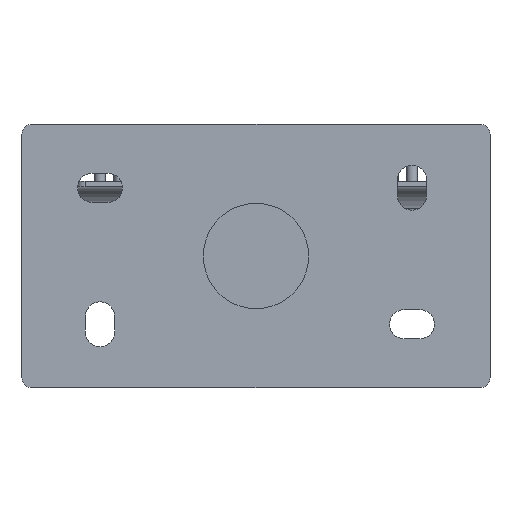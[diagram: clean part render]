
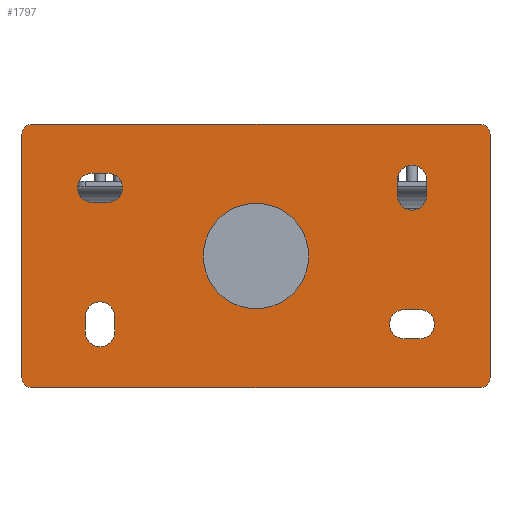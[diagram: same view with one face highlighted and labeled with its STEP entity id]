
A CAD part, front view. The second image highlights one B-rep face of the part: STEP entity #1797.
In plain terms, the highlighted planar face has unit normal (0, -1, 0).
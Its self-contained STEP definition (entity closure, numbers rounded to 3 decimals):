
#303=CARTESIAN_POINT('',(-115.,-928.9,24.104));
#304=DIRECTION('',(0.,-1.,0.));
#305=DIRECTION('',(0.,0.,1.));
#306=AXIS2_PLACEMENT_3D('',#303,#304,#305);
#308=DIRECTION('',(1.,0.,0.));
#309=VECTOR('',#308,230.);
#310=CARTESIAN_POINT('',(-115.,-928.9,29.104));
#311=LINE('195',#310,#309);
#312=CARTESIAN_POINT('',(115.,-928.9,24.104));
#313=DIRECTION('',(0.,-1.,0.));
#314=DIRECTION('',(1.,0.,0.));
#315=AXIS2_PLACEMENT_3D('',#312,#313,#314);
#317=DIRECTION('',(0.,0.,-1.));
#318=VECTOR('',#317,125.);
#319=CARTESIAN_POINT('',(120.,-928.9,24.104));
#320=LINE('196',#319,#318);
#321=CARTESIAN_POINT('',(115.,-928.9,-100.896));
#322=DIRECTION('',(0.,-1.,0.));
#323=DIRECTION('',(0.,0.,-1.));
#324=AXIS2_PLACEMENT_3D('',#321,#322,#323);
#326=DIRECTION('',(-1.,0.,0.));
#327=VECTOR('',#326,230.);
#328=CARTESIAN_POINT('',(115.,-928.9,-105.896));
#329=LINE('193',#328,#327);
#330=CARTESIAN_POINT('',(-115.,-928.9,-100.896));
#331=DIRECTION('',(0.,-1.,0.));
#332=DIRECTION('',(-1.,0.,0.));
#333=AXIS2_PLACEMENT_3D('',#330,#331,#332);
#335=DIRECTION('',(0.,0.,1.));
#336=VECTOR('',#335,125.);
#337=CARTESIAN_POINT('',(-120.,-928.9,-100.896));
#338=LINE('194',#337,#336);
#339=CARTESIAN_POINT('',(-80.,-928.9,-69.396));
#340=DIRECTION('',(0.,1.,0.));
#341=DIRECTION('',(-1.,0.,0.));
#342=AXIS2_PLACEMENT_3D('',#339,#340,#341);
#344=DIRECTION('',(0.,0.,1.));
#345=VECTOR('',#344,8.);
#346=CARTESIAN_POINT('',(-87.5,-928.9,-77.396));
#347=LINE('132',#346,#345);
#348=CARTESIAN_POINT('',(-80.,-928.9,-77.396));
#349=DIRECTION('',(0.,1.,0.));
#350=DIRECTION('',(1.,0.,0.));
#351=AXIS2_PLACEMENT_3D('',#348,#349,#350);
#353=DIRECTION('',(0.,0.,-1.));
#354=VECTOR('',#353,8.);
#355=CARTESIAN_POINT('',(-72.5,-928.9,-69.396));
#356=LINE('130',#355,#354);
#357=CARTESIAN_POINT('',(80.,-928.9,-7.396));
#358=DIRECTION('',(0.,1.,0.));
#359=DIRECTION('',(1.,0.,0.));
#360=AXIS2_PLACEMENT_3D('',#357,#358,#359);
#362=DIRECTION('',(0.,0.,-1.));
#363=VECTOR('',#362,8.);
#364=CARTESIAN_POINT('',(87.5,-928.9,0.604));
#365=LINE('136',#364,#363);
#366=CARTESIAN_POINT('',(80.,-928.9,0.604));
#367=DIRECTION('',(0.,1.,0.));
#368=DIRECTION('',(-1.,0.,0.));
#369=AXIS2_PLACEMENT_3D('',#366,#367,#368);
#371=DIRECTION('',(0.,0.,1.));
#372=VECTOR('',#371,8.);
#373=CARTESIAN_POINT('',(72.5,-928.9,-7.396));
#374=LINE('134',#373,#372);
#375=CARTESIAN_POINT('',(-84.,-928.9,-3.396));
#376=DIRECTION('',(0.,1.,0.));
#377=DIRECTION('',(0.,0.,-1.));
#378=AXIS2_PLACEMENT_3D('',#375,#376,#377);
#380=DIRECTION('',(-1.,0.,0.));
#381=VECTOR('',#380,8.);
#382=CARTESIAN_POINT('',(-76.,-928.9,-10.896));
#383=LINE('140',#382,#381);
#384=CARTESIAN_POINT('',(-76.,-928.9,-3.396));
#385=DIRECTION('',(0.,1.,0.));
#386=DIRECTION('',(0.,0.,1.));
#387=AXIS2_PLACEMENT_3D('',#384,#385,#386);
#389=DIRECTION('',(1.,0.,0.));
#390=VECTOR('',#389,8.);
#391=CARTESIAN_POINT('',(-84.,-928.9,4.104));
#392=LINE('138',#391,#390);
#393=CARTESIAN_POINT('',(76.,-928.9,-73.396));
#394=DIRECTION('',(0.,1.,0.));
#395=DIRECTION('',(0.,0.,-1.));
#396=AXIS2_PLACEMENT_3D('',#393,#394,#395);
#398=DIRECTION('',(-1.,0.,0.));
#399=VECTOR('',#398,8.);
#400=CARTESIAN_POINT('',(84.,-928.9,-80.896));
#401=LINE('144',#400,#399);
#402=CARTESIAN_POINT('',(84.,-928.9,-73.396));
#403=DIRECTION('',(0.,1.,0.));
#404=DIRECTION('',(0.,0.,1.));
#405=AXIS2_PLACEMENT_3D('',#402,#403,#404);
#407=DIRECTION('',(1.,0.,0.));
#408=VECTOR('',#407,8.);
#409=CARTESIAN_POINT('',(76.,-928.9,-65.896));
#410=LINE('142',#409,#408);
#1068=CARTESIAN_POINT('',(0.,-928.9,-38.396));
#1069=DIRECTION('',(0.,1.,0.));
#1070=DIRECTION('',(0.,0.,1.));
#1071=AXIS2_PLACEMENT_3D('',#1068,#1069,#1070);
#1077=CARTESIAN_POINT('',(0.,-928.9,-38.396));
#1078=DIRECTION('',(0.,1.,0.));
#1079=DIRECTION('',(0.,0.,-1.));
#1080=AXIS2_PLACEMENT_3D('',#1077,#1078,#1079);
#1437=CARTESIAN_POINT('',(-87.5,-928.9,-69.396));
#1438=CARTESIAN_POINT('',(-72.5,-928.9,-69.396));
#1439=VERTEX_POINT('',#1437);
#1440=VERTEX_POINT('',#1438);
#1441=CARTESIAN_POINT('',(-72.5,-928.9,-77.396));
#1442=VERTEX_POINT('',#1441);
#1443=CARTESIAN_POINT('',(-87.5,-928.9,-77.396));
#1444=VERTEX_POINT('',#1443);
#1445=CARTESIAN_POINT('',(87.5,-928.9,-7.396));
#1446=CARTESIAN_POINT('',(72.5,-928.9,-7.396));
#1447=VERTEX_POINT('',#1445);
#1448=VERTEX_POINT('',#1446);
#1449=CARTESIAN_POINT('',(72.5,-928.9,0.604));
#1450=VERTEX_POINT('',#1449);
#1451=CARTESIAN_POINT('',(87.5,-928.9,0.604));
#1452=VERTEX_POINT('',#1451);
#1453=CARTESIAN_POINT('',(-84.,-928.9,-10.896));
#1454=CARTESIAN_POINT('',(-84.,-928.9,4.104));
#1455=VERTEX_POINT('',#1453);
#1456=VERTEX_POINT('',#1454);
#1457=CARTESIAN_POINT('',(-76.,-928.9,4.104));
#1458=VERTEX_POINT('',#1457);
#1459=CARTESIAN_POINT('',(-76.,-928.9,-10.896));
#1460=VERTEX_POINT('',#1459);
#1461=CARTESIAN_POINT('',(76.,-928.9,-80.896));
#1462=CARTESIAN_POINT('',(76.,-928.9,-65.896));
#1463=VERTEX_POINT('',#1461);
#1464=VERTEX_POINT('',#1462);
#1465=CARTESIAN_POINT('',(84.,-928.9,-65.896));
#1466=VERTEX_POINT('',#1465);
#1467=CARTESIAN_POINT('',(84.,-928.9,-80.896));
#1468=VERTEX_POINT('',#1467);
#1501=CARTESIAN_POINT('',(-115.,-928.9,29.104));
#1502=CARTESIAN_POINT('',(-120.,-928.9,24.104));
#1503=VERTEX_POINT('',#1501);
#1504=VERTEX_POINT('',#1502);
#1509=CARTESIAN_POINT('',(-120.,-928.9,-100.896));
#1510=CARTESIAN_POINT('',(-115.,-928.9,-105.896));
#1511=VERTEX_POINT('',#1509);
#1512=VERTEX_POINT('',#1510);
#1517=CARTESIAN_POINT('',(120.,-928.9,24.104));
#1518=CARTESIAN_POINT('',(115.,-928.9,29.104));
#1519=VERTEX_POINT('',#1517);
#1520=VERTEX_POINT('',#1518);
#1525=CARTESIAN_POINT('',(115.,-928.9,-105.896));
#1526=CARTESIAN_POINT('',(120.,-928.9,-100.896));
#1527=VERTEX_POINT('',#1525);
#1528=VERTEX_POINT('',#1526);
#1722=CARTESIAN_POINT('',(0.,-928.9,-11.396));
#1723=CARTESIAN_POINT('',(0.,-928.9,-65.396));
#1724=VERTEX_POINT('',#1722);
#1725=VERTEX_POINT('',#1723);
#1728=CARTESIAN_POINT('',(0.,-928.9,-38.396));
#1729=DIRECTION('',(0.,1.,0.));
#1730=DIRECTION('',(1.,0.,0.));
#1731=AXIS2_PLACEMENT_3D('',#1728,#1729,#1730);
#1732=PLANE('39',#1731);
#1734=ORIENTED_EDGE('177',*,*,#1733,.F.);
#1736=ORIENTED_EDGE('195',*,*,#1735,.T.);
#1738=ORIENTED_EDGE('185',*,*,#1737,.F.);
#1740=ORIENTED_EDGE('196',*,*,#1739,.T.);
#1742=ORIENTED_EDGE('189',*,*,#1741,.F.);
#1744=ORIENTED_EDGE('193',*,*,#1743,.T.);
#1746=ORIENTED_EDGE('181',*,*,#1745,.F.);
#1748=ORIENTED_EDGE('194',*,*,#1747,.T.);
#1749=EDGE_LOOP('39',(#1734,#1736,#1738,#1740,#1742,#1744,#1746,#1748));
#1750=FACE_OUTER_BOUND('39',#1749,.F.);
#1752=ORIENTED_EDGE('353',*,*,#1751,.F.);
#1754=ORIENTED_EDGE('352',*,*,#1753,.F.);
#1755=EDGE_LOOP('39',(#1752,#1754));
#1756=FACE_BOUND('39',#1755,.F.);
#1758=ORIENTED_EDGE('129',*,*,#1757,.F.);
#1760=ORIENTED_EDGE('132',*,*,#1759,.F.);
#1762=ORIENTED_EDGE('131',*,*,#1761,.F.);
#1764=ORIENTED_EDGE('130',*,*,#1763,.F.);
#1765=EDGE_LOOP('39',(#1758,#1760,#1762,#1764));
#1766=FACE_BOUND('39',#1765,.F.);
#1768=ORIENTED_EDGE('133',*,*,#1767,.F.);
#1770=ORIENTED_EDGE('136',*,*,#1769,.F.);
#1772=ORIENTED_EDGE('135',*,*,#1771,.F.);
#1774=ORIENTED_EDGE('134',*,*,#1773,.F.);
#1775=EDGE_LOOP('39',(#1768,#1770,#1772,#1774));
#1776=FACE_BOUND('39',#1775,.F.);
#1778=ORIENTED_EDGE('137',*,*,#1777,.F.);
#1780=ORIENTED_EDGE('140',*,*,#1779,.F.);
#1782=ORIENTED_EDGE('139',*,*,#1781,.F.);
#1784=ORIENTED_EDGE('138',*,*,#1783,.F.);
#1785=EDGE_LOOP('39',(#1778,#1780,#1782,#1784));
#1786=FACE_BOUND('39',#1785,.F.);
#1788=ORIENTED_EDGE('141',*,*,#1787,.F.);
#1790=ORIENTED_EDGE('144',*,*,#1789,.F.);
#1792=ORIENTED_EDGE('143',*,*,#1791,.F.);
#1794=ORIENTED_EDGE('142',*,*,#1793,.F.);
#1795=EDGE_LOOP('39',(#1788,#1790,#1792,#1794));
#1796=FACE_BOUND('39',#1795,.F.);
#307=CIRCLE('177',#306,5.);
#316=CIRCLE('185',#315,5.);
#325=CIRCLE('189',#324,5.);
#334=CIRCLE('181',#333,5.);
#343=CIRCLE('129',#342,7.5);
#352=CIRCLE('131',#351,7.5);
#361=CIRCLE('133',#360,7.5);
#370=CIRCLE('135',#369,7.5);
#379=CIRCLE('137',#378,7.5);
#388=CIRCLE('139',#387,7.5);
#397=CIRCLE('141',#396,7.5);
#406=CIRCLE('143',#405,7.5);
#1072=CIRCLE('352',#1071,27.);
#1081=CIRCLE('353',#1080,27.);
#1733=EDGE_CURVE('177',#1503,#1504,#307,.T.);
#1735=EDGE_CURVE('195',#1503,#1520,#311,.T.);
#1737=EDGE_CURVE('185',#1519,#1520,#316,.T.);
#1739=EDGE_CURVE('196',#1519,#1528,#320,.T.);
#1741=EDGE_CURVE('189',#1527,#1528,#325,.T.);
#1743=EDGE_CURVE('193',#1527,#1512,#329,.T.);
#1745=EDGE_CURVE('181',#1511,#1512,#334,.T.);
#1747=EDGE_CURVE('194',#1511,#1504,#338,.T.);
#1751=EDGE_CURVE('353',#1725,#1724,#1081,.T.);
#1753=EDGE_CURVE('352',#1724,#1725,#1072,.T.);
#1757=EDGE_CURVE('129',#1439,#1440,#343,.T.);
#1759=EDGE_CURVE('132',#1444,#1439,#347,.T.);
#1761=EDGE_CURVE('131',#1442,#1444,#352,.T.);
#1763=EDGE_CURVE('130',#1440,#1442,#356,.T.);
#1767=EDGE_CURVE('133',#1447,#1448,#361,.T.);
#1769=EDGE_CURVE('136',#1452,#1447,#365,.T.);
#1771=EDGE_CURVE('135',#1450,#1452,#370,.T.);
#1773=EDGE_CURVE('134',#1448,#1450,#374,.T.);
#1777=EDGE_CURVE('137',#1455,#1456,#379,.T.);
#1779=EDGE_CURVE('140',#1460,#1455,#383,.T.);
#1781=EDGE_CURVE('139',#1458,#1460,#388,.T.);
#1783=EDGE_CURVE('138',#1456,#1458,#392,.T.);
#1787=EDGE_CURVE('141',#1463,#1464,#397,.T.);
#1789=EDGE_CURVE('144',#1468,#1463,#401,.T.);
#1791=EDGE_CURVE('143',#1466,#1468,#406,.T.);
#1793=EDGE_CURVE('142',#1464,#1466,#410,.T.);
#1797=ADVANCED_FACE('39',(#1750,#1756,#1766,#1776,#1786,#1796),#1732,.F.);
